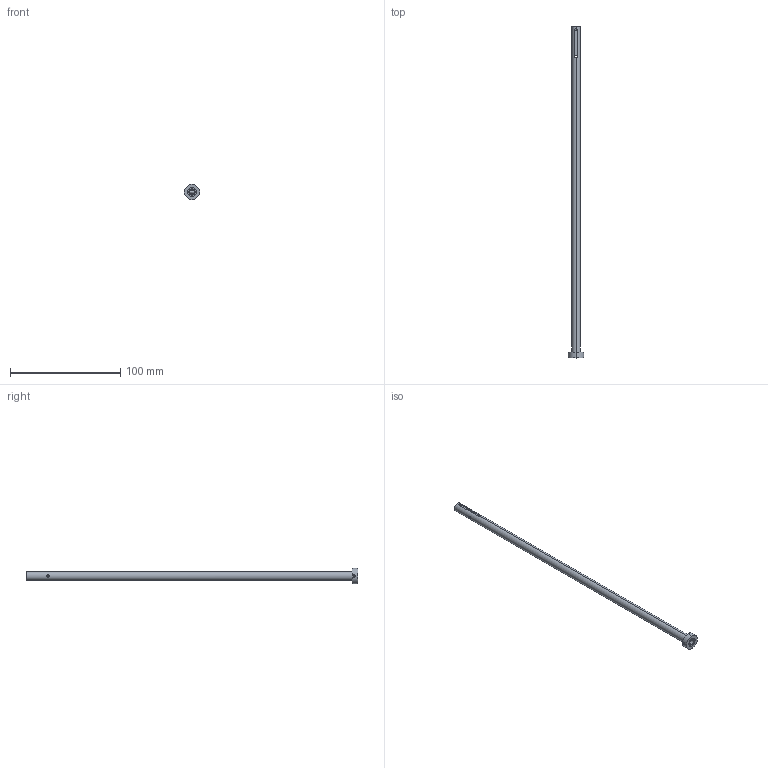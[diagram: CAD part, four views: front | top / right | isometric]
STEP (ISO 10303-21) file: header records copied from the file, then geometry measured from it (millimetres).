
FILE_DESCRIPTION (( 'STEP AP203' ), '1' );
FILE_NAME ('SGDE-805x300.STEP', '2017-01-10T15:42:33', ( 'Balzi' ), ( '' ), 'SwSTEP 2.0', 'SolidWorks 2016', '' );
FILE_SCHEMA (( 'CONFIG_CONTROL_DESIGN' ));
Length unit declared in the file: millimetre
Products named in the file (1): SGDE-805x300
Bounding box: 14 x 300.5 x 14 mm (x, y, z)
Volume: 9629.8 mm3; surface area: 13422.2 mm2
Topology: 1 solids, 1 shells, 84 faces, 234 edges, 154 vertices
Faces by surface type: cylinder 48, plane 32, cone 4
Entity records: 3313 total; most frequent: CARTESIAN_POINT 1077, ORIENTED_EDGE 468, DIRECTION 422, EDGE_CURVE 234, AXIS2_PLACEMENT_3D 155, VERTEX_POINT 154, VECTOR 112, LINE 112
